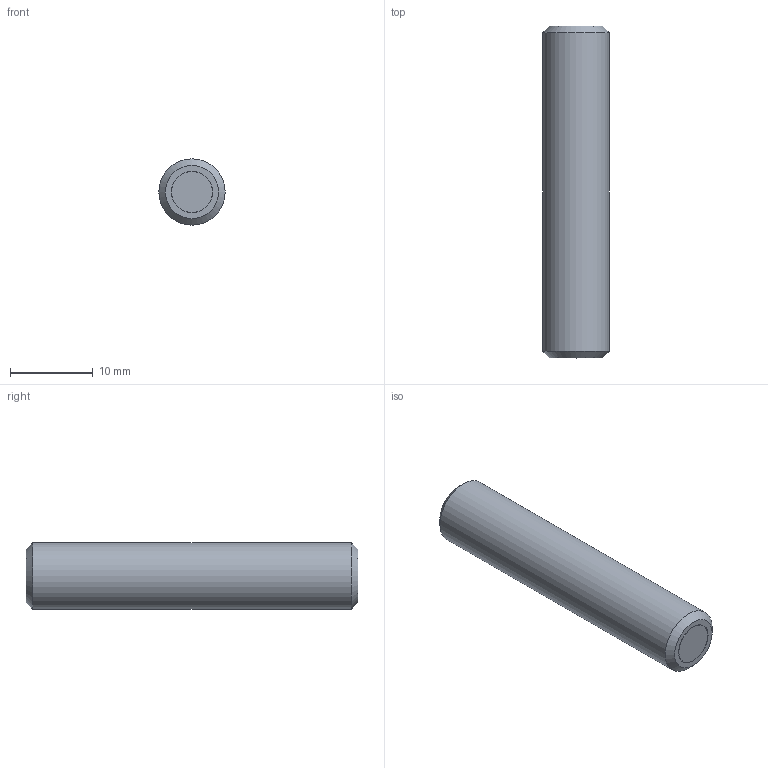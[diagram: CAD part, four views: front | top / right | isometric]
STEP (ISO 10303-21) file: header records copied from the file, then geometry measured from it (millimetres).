
FILE_DESCRIPTION(/* description */ ('STEP AP214'),/* implementation_level */ '2;1');
FILE_NAME(/* name */ 'Grub screw with retaining magnet GN 913.6-M8-40-ND',/* time_stamp */ '2023-10-03T11:26:41+02:00',/* author */ ('License CC BY-ND 4.0'),/* organization */ ('CADENAS'),/* preprocessor_version */ 'ST-DEVELOPER v19.3',/* originating_system */ 'PARTsolutions',/* authorisation */ ' ');
FILE_SCHEMA (('AUTOMOTIVE_DESIGN {1 0 10303 214 3 1 1}'));
Length unit declared in the file: millimetre
Products named in the file (1): Grub screw with retaining magnet GN 913.6-M8-40-ND
Bounding box: 8 x 40 x 8 mm (x, y, z)
Volume: 1937.8 mm3; surface area: 1136.1 mm2
Topology: 1 solids, 1 shells, 22 faces, 46 edges, 28 vertices
Faces by surface type: plane 16, cone 3, cylinder 3
Full cylindrical faces by diameter (mm): 4.96 x1, 5 x1, 8 x1
Entity records: 566 total; most frequent: DIRECTION 98, CARTESIAN_POINT 88, ORIENTED_EDGE 76, EDGE_CURVE 38, AXIS2_PLACEMENT_3D 37, FACE_BOUND 31, EDGE_LOOP 30, VERTEX_POINT 27
